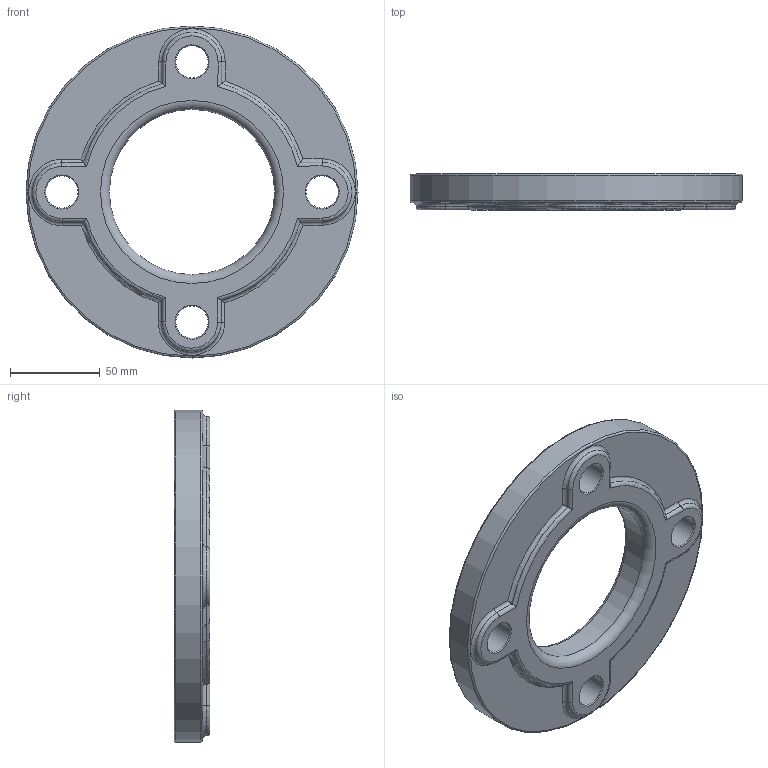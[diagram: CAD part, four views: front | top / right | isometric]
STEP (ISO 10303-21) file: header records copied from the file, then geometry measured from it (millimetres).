
FILE_DESCRIPTION(/* description */ ('Unknown'),/* implementation_level */ '2;1');
FILE_NAME(/* name */ 'FA075B',/* time_stamp */ '2022-07-19T12:03:56+02:00',/* author */ ('Unknown'),/* organization */ ('Unknown'),/* preprocessor_version */ 'ST-DEVELOPER v18.102',/* originating_system */ 'Solid Edge',/* authorisation */ 'Unknown');
FILE_SCHEMA (('AUTOMOTIVE_DESIGN {1 0 10303 214 3 1 1}'));
Length unit declared in the file: millimetre
Products named in the file (1): FA075B
Bounding box: 185 x 20 x 185 mm (x, y, z)
Volume: 336260.3 mm3; surface area: 57836 mm2
Topology: 1 solids, 1 shells, 53 faces, 134 edges, 84 vertices
Faces by surface type: cylinder 22, torus 20, cone 8, plane 3
Full cylindrical faces by diameter (mm): 18 x4, 92 x1, 185 x1
Entity records: 1496 total; most frequent: CARTESIAN_POINT 326, DIRECTION 244, ORIENTED_EDGE 208, AXIS2_PLACEMENT_3D 110, EDGE_CURVE 104, EDGE_LOOP 82, FACE_BOUND 82, VERTEX_POINT 72
